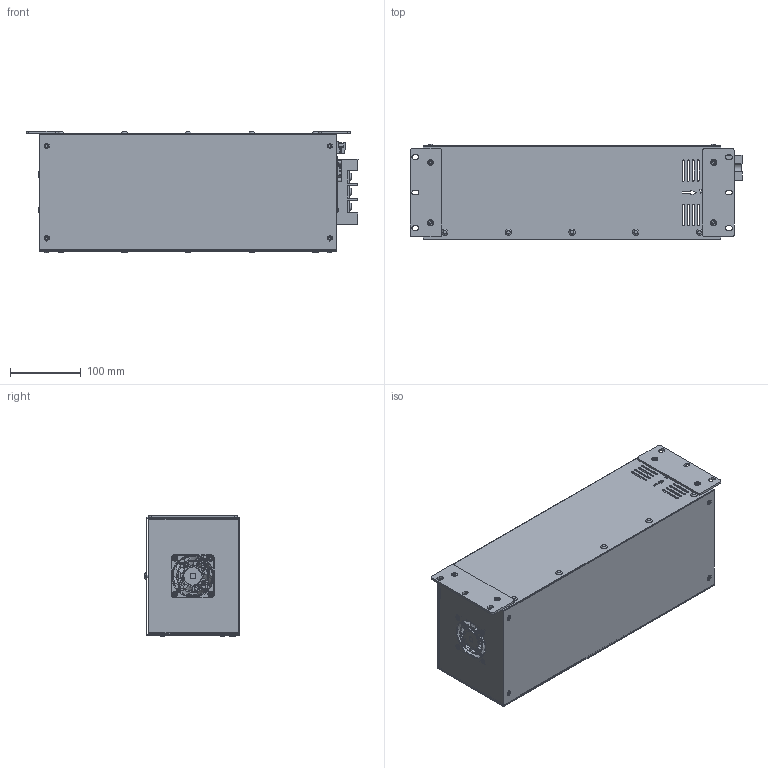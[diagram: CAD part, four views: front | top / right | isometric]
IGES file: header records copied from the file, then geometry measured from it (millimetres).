
Global section: file name: VX2COM_V; native system: Autodesk Inventor 2026; preprocessor: unknown; author: jjang; date: 20260317.105007; units: inch
Bounding box: 468 x 134.59 x 171.54 mm (x, y, z)
Volume: 531871.1 mm3; surface area: 677426.9 mm2
Topology: 7 solids, 7 shells, 3299 faces, 10145 edges, 7203 vertices
Faces by surface type: bspline 3299
